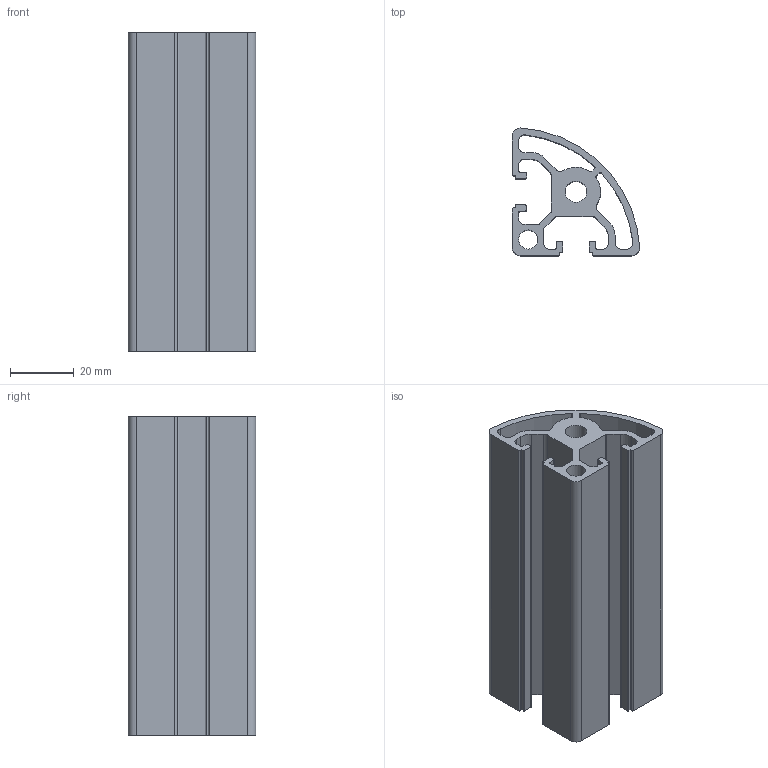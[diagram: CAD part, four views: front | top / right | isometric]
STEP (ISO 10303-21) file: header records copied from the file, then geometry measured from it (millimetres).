
FILE_DESCRIPTION((''),'2;1');
FILE_NAME('E:\catalogue and flyer\Profile catalogue 2015\profile-step file,31MAr16\PS4040CR-8.stp','2016-03-31T13:49:17',('h029'),(''),'Autodesk Inventor 11','Autodesk Inventor 11','');
FILE_SCHEMA(('AUTOMOTIVE_DESIGN { 1 0 10303 214 1 1 1 1 }'));
Length unit declared in the file: millimetre
Products named in the file (1): ps4040CR-8
Bounding box: 40 x 40 x 100 mm (x, y, z)
Volume: 53245.8 mm3; surface area: 40682.5 mm2
Topology: 1 solids, 1 shells, 102 faces, 300 edges, 200 vertices
Faces by surface type: cylinder 54, plane 48
Full cylindrical faces by diameter (mm): 6 x1, 6.7 x1
Entity records: 3461 total; most frequent: DIRECTION 612, CARTESIAN_POINT 601, ORIENTED_EDGE 596, EDGE_CURVE 298, AXIS2_PLACEMENT_3D 211, VERTEX_POINT 200, VECTOR 190, LINE 190
